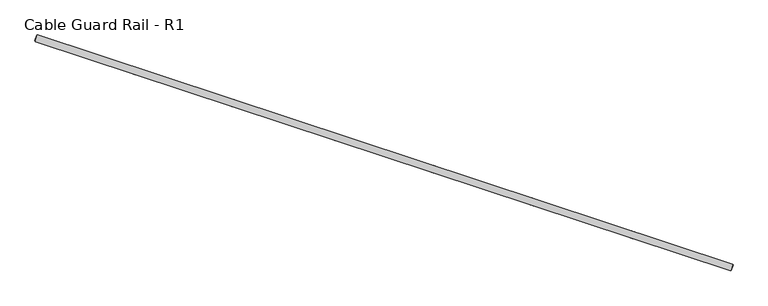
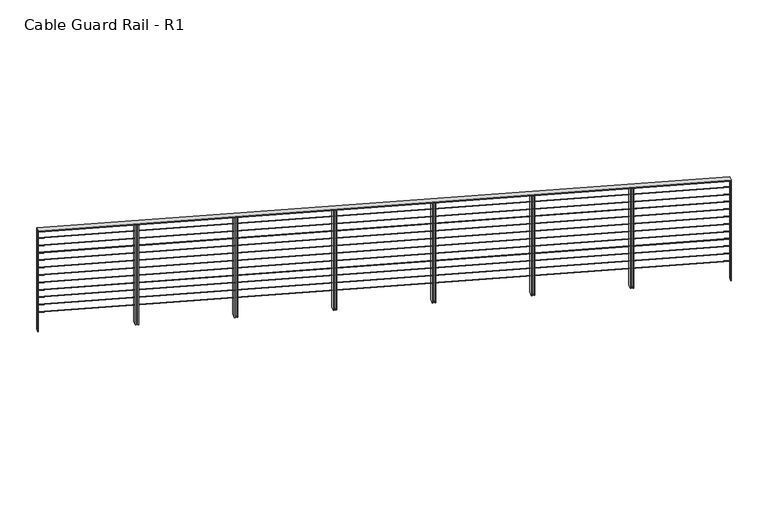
"""IFC4 building model written with IfcOpenShell, lengths in millimetres: railing geometry, Cable Guard Rail - R1."""

from ifc_helpers import new_model, si_unit, frame, origin, place, context, project, spatial, polyline, ellipse_curve, outline, extrude, faceted_brep, source, transform, mapped, element, save
from ifc_brep_helpers import plane_surface, cylinder_surface, advanced_brep


def cable_guard_rail_r1_dc42db87(model_context):
    return source(origin(), model_context, "Body", "SolidModel", [
        faceted_brep([(39967.5528844, 190153.8891806, 295794.755019), (39991.4553193, 190226.2432655, 295794.755019), (39991.4553193, 190226.2432655, 295782.0363753), (39967.5528844, 190153.8891806, 295782.0363753), (47512.9748594, 187661.2316074, 295364.0158915), (47512.9748594, 187661.2316074, 295351.2972478), (47536.8772944, 187733.5856924, 295351.2972478), (47536.8772944, 187733.5856924, 295364.0158915)], [[[0, 1, 2, 3]], [[4, 5, 6, 7]], [[1, 0, 4, 7]], [[2, 1, 7, 6]], [[3, 2, 6, 5]], [[0, 3, 5, 4]]]),
        advanced_brep(
        [(39980.5000366, 190193.0809766, 295680.455019), (39978.5081671, 190187.0514695, 295680.455019), (47525.9220117, 187700.4234034, 295249.7158915), (47523.9301421, 187694.3938964, 295249.7158915)],
        [
            (0, 1, ellipse_curve(frame((39979.5041019, 190190.066223, 295680.455019), z_axis=(-0.9495286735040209, 0.3136802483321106, 0.0), x_axis=(0.0, 0.0, 1.0)), 3.1796609, 3.175)),
            (1, 0, ellipse_curve(frame((39979.5041019, 190190.066223, 295680.455019), z_axis=(-0.9495286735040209, 0.3136802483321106, 0.0), x_axis=(0.0, 0.0, 1.0)), 3.1796609, 3.175)),
            (2, 3, ellipse_curve(frame((47524.9260769, 187697.4086499, 295249.7158915), z_axis=(0.9495286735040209, -0.3136802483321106, 0.0), x_axis=(0.0, 0.0, 1.0)), 3.1796609, 3.175)),
            (3, 2, ellipse_curve(frame((47524.9260769, 187697.4086499, 295249.7158915), z_axis=(0.9495286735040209, -0.3136802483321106, 0.0), x_axis=(0.0, 0.0, 1.0)), 3.1796609, 3.175)),
            (0, 2),
            (3, 1),
        ],
        [
            plane_surface(frame((39979.5041019, 190190.066223, 295680.455019), z_axis=(-0.9495286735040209, 0.3136802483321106, 0.0), x_axis=(0.3136802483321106, 0.9495286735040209, 0.0))),
            plane_surface(frame((47524.9260769, 187697.4086499, 295249.7158915), z_axis=(0.9495286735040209, -0.3136802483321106, 0.0), x_axis=(0.3136802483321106, 0.9495286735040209, 0.0))),
            cylinder_surface(frame((39979.5041019, 190190.066223, 295680.455019), z_axis=(-0.9481367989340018, 0.3132204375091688, 0.0541254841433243), x_axis=(-0.3136802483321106, -0.9495286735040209, 0.0)), 3.175),
        ],
        [
            (0, [[1, 2]]),
            (1, [[3, 4]]),
            (2, [[-1, 5, -4, 6]]),
            (2, [[-2, -6, -3, -5]]),
        ],
    ),
        advanced_brep(
        [(39980.5000366, 190193.0809766, 295578.855019), (39978.5081671, 190187.0514695, 295578.855019), (47525.9220117, 187700.4234034, 295148.1158915), (47523.9301421, 187694.3938964, 295148.1158915)],
        [
            (0, 1, ellipse_curve(frame((39979.5041019, 190190.066223, 295578.855019), z_axis=(-0.9495286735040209, 0.3136802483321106, 0.0), x_axis=(0.0, 0.0, 1.0)), 3.1796609, 3.175)),
            (1, 0, ellipse_curve(frame((39979.5041019, 190190.066223, 295578.855019), z_axis=(-0.9495286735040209, 0.3136802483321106, 0.0), x_axis=(0.0, 0.0, 1.0)), 3.1796609, 3.175)),
            (2, 3, ellipse_curve(frame((47524.9260769, 187697.4086499, 295148.1158915), z_axis=(0.9495286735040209, -0.3136802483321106, 0.0), x_axis=(0.0, 0.0, 1.0)), 3.1796609, 3.175)),
            (3, 2, ellipse_curve(frame((47524.9260769, 187697.4086499, 295148.1158915), z_axis=(0.9495286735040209, -0.3136802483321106, 0.0), x_axis=(0.0, 0.0, 1.0)), 3.1796609, 3.175)),
            (0, 2),
            (3, 1),
        ],
        [
            plane_surface(frame((39979.5041019, 190190.066223, 295578.855019), z_axis=(-0.9495286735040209, 0.3136802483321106, 0.0), x_axis=(0.3136802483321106, 0.9495286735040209, 0.0))),
            plane_surface(frame((47524.9260769, 187697.4086499, 295148.1158915), z_axis=(0.9495286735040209, -0.3136802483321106, 0.0), x_axis=(0.3136802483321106, 0.9495286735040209, 0.0))),
            cylinder_surface(frame((39979.5041019, 190190.066223, 295578.855019), z_axis=(-0.9481367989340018, 0.3132204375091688, 0.0541254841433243), x_axis=(-0.3136802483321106, -0.9495286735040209, 0.0)), 3.175),
        ],
        [
            (0, [[1, 2]]),
            (1, [[3, 4]]),
            (2, [[-1, 5, -4, 6]]),
            (2, [[-2, -6, -3, -5]]),
        ],
    ),
        advanced_brep(
        [(39980.5000366, 190193.0809766, 295477.255019), (39978.5081671, 190187.0514695, 295477.255019), (47525.9220117, 187700.4234034, 295046.5158915), (47523.9301421, 187694.3938964, 295046.5158915)],
        [
            (0, 1, ellipse_curve(frame((39979.5041019, 190190.066223, 295477.255019), z_axis=(-0.9495286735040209, 0.3136802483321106, 0.0), x_axis=(0.0, 0.0, 1.0)), 3.1796609, 3.175)),
            (1, 0, ellipse_curve(frame((39979.5041019, 190190.066223, 295477.255019), z_axis=(-0.9495286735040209, 0.3136802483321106, 0.0), x_axis=(0.0, 0.0, 1.0)), 3.1796609, 3.175)),
            (2, 3, ellipse_curve(frame((47524.9260769, 187697.4086499, 295046.5158915), z_axis=(0.9495286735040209, -0.3136802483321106, 0.0), x_axis=(0.0, 0.0, 1.0)), 3.1796609, 3.175)),
            (3, 2, ellipse_curve(frame((47524.9260769, 187697.4086499, 295046.5158915), z_axis=(0.9495286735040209, -0.3136802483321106, 0.0), x_axis=(0.0, 0.0, 1.0)), 3.1796609, 3.175)),
            (0, 2),
            (3, 1),
        ],
        [
            plane_surface(frame((39979.5041019, 190190.066223, 295477.255019), z_axis=(-0.9495286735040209, 0.3136802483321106, 0.0), x_axis=(0.3136802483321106, 0.9495286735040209, 0.0))),
            plane_surface(frame((47524.9260769, 187697.4086499, 295046.5158915), z_axis=(0.9495286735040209, -0.3136802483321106, 0.0), x_axis=(0.3136802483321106, 0.9495286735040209, 0.0))),
            cylinder_surface(frame((39979.5041019, 190190.066223, 295477.255019), z_axis=(-0.9481367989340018, 0.3132204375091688, 0.0541254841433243), x_axis=(-0.3136802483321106, -0.9495286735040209, 0.0)), 3.175),
        ],
        [
            (0, [[1, 2]]),
            (1, [[3, 4]]),
            (2, [[-1, 5, -4, 6]]),
            (2, [[-2, -6, -3, -5]]),
        ],
    ),
        advanced_brep(
        [(39980.5000366, 190193.0809766, 295375.655019), (39978.5081671, 190187.0514695, 295375.655019), (47525.9220117, 187700.4234034, 294944.9158915), (47523.9301421, 187694.3938964, 294944.9158915)],
        [
            (0, 1, ellipse_curve(frame((39979.5041019, 190190.066223, 295375.655019), z_axis=(-0.9495286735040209, 0.3136802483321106, 0.0), x_axis=(0.0, 0.0, 1.0)), 3.1796609, 3.175)),
            (1, 0, ellipse_curve(frame((39979.5041019, 190190.066223, 295375.655019), z_axis=(-0.9495286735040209, 0.3136802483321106, 0.0), x_axis=(0.0, 0.0, 1.0)), 3.1796609, 3.175)),
            (2, 3, ellipse_curve(frame((47524.9260769, 187697.4086499, 294944.9158915), z_axis=(0.9495286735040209, -0.3136802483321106, 0.0), x_axis=(0.0, 0.0, 1.0)), 3.1796609, 3.175)),
            (3, 2, ellipse_curve(frame((47524.9260769, 187697.4086499, 294944.9158915), z_axis=(0.9495286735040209, -0.3136802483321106, 0.0), x_axis=(0.0, 0.0, 1.0)), 3.1796609, 3.175)),
            (0, 2),
            (3, 1),
        ],
        [
            plane_surface(frame((39979.5041019, 190190.066223, 295375.655019), z_axis=(-0.9495286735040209, 0.3136802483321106, 0.0), x_axis=(0.3136802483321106, 0.9495286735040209, 0.0))),
            plane_surface(frame((47524.9260769, 187697.4086499, 294944.9158915), z_axis=(0.9495286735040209, -0.3136802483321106, 0.0), x_axis=(0.3136802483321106, 0.9495286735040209, 0.0))),
            cylinder_surface(frame((39979.5041019, 190190.066223, 295375.655019), z_axis=(-0.9481367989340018, 0.3132204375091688, 0.0541254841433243), x_axis=(-0.3136802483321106, -0.9495286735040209, 0.0)), 3.175),
        ],
        [
            (0, [[1, 2]]),
            (1, [[3, 4]]),
            (2, [[-1, 5, -4, 6]]),
            (2, [[-2, -6, -3, -5]]),
        ],
    ),
        advanced_brep(
        [(39980.5000366, 190193.0809766, 295274.055019), (39978.5081671, 190187.0514695, 295274.055019), (47525.9220117, 187700.4234034, 294843.3158915), (47523.9301421, 187694.3938964, 294843.3158915)],
        [
            (0, 1, ellipse_curve(frame((39979.5041019, 190190.066223, 295274.055019), z_axis=(-0.9495286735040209, 0.3136802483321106, 0.0), x_axis=(0.0, 0.0, 1.0)), 3.1796609, 3.175)),
            (1, 0, ellipse_curve(frame((39979.5041019, 190190.066223, 295274.055019), z_axis=(-0.9495286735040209, 0.3136802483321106, 0.0), x_axis=(0.0, 0.0, 1.0)), 3.1796609, 3.175)),
            (2, 3, ellipse_curve(frame((47524.9260769, 187697.4086499, 294843.3158915), z_axis=(0.9495286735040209, -0.3136802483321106, 0.0), x_axis=(0.0, 0.0, 1.0)), 3.1796609, 3.175)),
            (3, 2, ellipse_curve(frame((47524.9260769, 187697.4086499, 294843.3158915), z_axis=(0.9495286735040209, -0.3136802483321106, 0.0), x_axis=(0.0, 0.0, 1.0)), 3.1796609, 3.175)),
            (0, 2),
            (3, 1),
        ],
        [
            plane_surface(frame((39979.5041019, 190190.066223, 295274.055019), z_axis=(-0.9495286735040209, 0.3136802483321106, 0.0), x_axis=(0.3136802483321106, 0.9495286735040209, 0.0))),
            plane_surface(frame((47524.9260769, 187697.4086499, 294843.3158915), z_axis=(0.9495286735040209, -0.3136802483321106, 0.0), x_axis=(0.3136802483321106, 0.9495286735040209, 0.0))),
            cylinder_surface(frame((39979.5041019, 190190.066223, 295274.055019), z_axis=(-0.9481367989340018, 0.3132204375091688, 0.0541254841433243), x_axis=(-0.3136802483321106, -0.9495286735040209, 0.0)), 3.175),
        ],
        [
            (0, [[1, 2]]),
            (1, [[3, 4]]),
            (2, [[-1, 5, -4, 6]]),
            (2, [[-2, -6, -3, -5]]),
        ],
    ),
        advanced_brep(
        [(39980.5000366, 190193.0809766, 295172.455019), (39978.5081671, 190187.0514695, 295172.455019), (47525.9220117, 187700.4234034, 294741.7158915), (47523.9301421, 187694.3938964, 294741.7158915)],
        [
            (0, 1, ellipse_curve(frame((39979.5041019, 190190.066223, 295172.455019), z_axis=(-0.9495286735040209, 0.3136802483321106, 0.0), x_axis=(0.0, 0.0, 1.0)), 3.1796609, 3.175)),
            (1, 0, ellipse_curve(frame((39979.5041019, 190190.066223, 295172.455019), z_axis=(-0.9495286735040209, 0.3136802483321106, 0.0), x_axis=(0.0, 0.0, 1.0)), 3.1796609, 3.175)),
            (2, 3, ellipse_curve(frame((47524.9260769, 187697.4086499, 294741.7158915), z_axis=(0.9495286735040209, -0.3136802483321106, 0.0), x_axis=(0.0, 0.0, 1.0)), 3.1796609, 3.175)),
            (3, 2, ellipse_curve(frame((47524.9260769, 187697.4086499, 294741.7158915), z_axis=(0.9495286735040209, -0.3136802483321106, 0.0), x_axis=(0.0, 0.0, 1.0)), 3.1796609, 3.175)),
            (0, 2),
            (3, 1),
        ],
        [
            plane_surface(frame((39979.5041019, 190190.066223, 295172.455019), z_axis=(-0.9495286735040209, 0.3136802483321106, 0.0), x_axis=(0.3136802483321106, 0.9495286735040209, 0.0))),
            plane_surface(frame((47524.9260769, 187697.4086499, 294741.7158915), z_axis=(0.9495286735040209, -0.3136802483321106, 0.0), x_axis=(0.3136802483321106, 0.9495286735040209, 0.0))),
            cylinder_surface(frame((39979.5041019, 190190.066223, 295172.455019), z_axis=(-0.9481367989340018, 0.3132204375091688, 0.0541254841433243), x_axis=(-0.3136802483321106, -0.9495286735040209, 0.0)), 3.175),
        ],
        [
            (0, [[1, 2]]),
            (1, [[3, 4]]),
            (2, [[-1, 5, -4, 6]]),
            (2, [[-2, -6, -3, -5]]),
        ],
    ),
        advanced_brep(
        [(39980.5000366, 190193.0809766, 295070.855019), (39978.5081671, 190187.0514695, 295070.855019), (47525.9220117, 187700.4234034, 294640.1158915), (47523.9301421, 187694.3938964, 294640.1158915)],
        [
            (0, 1, ellipse_curve(frame((39979.5041019, 190190.066223, 295070.855019), z_axis=(-0.9495286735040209, 0.3136802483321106, 0.0), x_axis=(0.0, 0.0, 1.0)), 3.1796609, 3.175)),
            (1, 0, ellipse_curve(frame((39979.5041019, 190190.066223, 295070.855019), z_axis=(-0.9495286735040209, 0.3136802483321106, 0.0), x_axis=(0.0, 0.0, 1.0)), 3.1796609, 3.175)),
            (2, 3, ellipse_curve(frame((47524.9260769, 187697.4086499, 294640.1158915), z_axis=(0.9495286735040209, -0.3136802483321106, 0.0), x_axis=(0.0, 0.0, 1.0)), 3.1796609, 3.175)),
            (3, 2, ellipse_curve(frame((47524.9260769, 187697.4086499, 294640.1158915), z_axis=(0.9495286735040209, -0.3136802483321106, 0.0), x_axis=(0.0, 0.0, 1.0)), 3.1796609, 3.175)),
            (0, 2),
            (3, 1),
        ],
        [
            plane_surface(frame((39979.5041019, 190190.066223, 295070.855019), z_axis=(-0.9495286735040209, 0.3136802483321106, 0.0), x_axis=(0.3136802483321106, 0.9495286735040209, 0.0))),
            plane_surface(frame((47524.9260769, 187697.4086499, 294640.1158915), z_axis=(0.9495286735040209, -0.3136802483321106, 0.0), x_axis=(0.3136802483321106, 0.9495286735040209, 0.0))),
            cylinder_surface(frame((39979.5041019, 190190.066223, 295070.855019), z_axis=(-0.9481367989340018, 0.3132204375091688, 0.0541254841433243), x_axis=(-0.3136802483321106, -0.9495286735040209, 0.0)), 3.175),
        ],
        [
            (0, [[1, 2]]),
            (1, [[3, 4]]),
            (2, [[-1, 5, -4, 6]]),
            (2, [[-2, -6, -3, -5]]),
        ],
    ),
        advanced_brep(
        [(39980.5000366, 190193.0809766, 294969.255019), (39978.5081671, 190187.0514695, 294969.255019), (47525.9220117, 187700.4234034, 294538.5158915), (47523.9301421, 187694.3938964, 294538.5158915)],
        [
            (0, 1, ellipse_curve(frame((39979.5041019, 190190.066223, 294969.255019), z_axis=(-0.9495286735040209, 0.3136802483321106, 0.0), x_axis=(0.0, 0.0, 1.0)), 3.1796609, 3.175)),
            (1, 0, ellipse_curve(frame((39979.5041019, 190190.066223, 294969.255019), z_axis=(-0.9495286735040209, 0.3136802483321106, 0.0), x_axis=(0.0, 0.0, 1.0)), 3.1796609, 3.175)),
            (2, 3, ellipse_curve(frame((47524.9260769, 187697.4086499, 294538.5158915), z_axis=(0.9495286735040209, -0.3136802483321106, 0.0), x_axis=(0.0, 0.0, 1.0)), 3.1796609, 3.175)),
            (3, 2, ellipse_curve(frame((47524.9260769, 187697.4086499, 294538.5158915), z_axis=(0.9495286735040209, -0.3136802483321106, 0.0), x_axis=(0.0, 0.0, 1.0)), 3.1796609, 3.175)),
            (0, 2),
            (3, 1),
        ],
        [
            plane_surface(frame((39979.5041019, 190190.066223, 294969.255019), z_axis=(-0.9495286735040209, 0.3136802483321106, 0.0), x_axis=(0.3136802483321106, 0.9495286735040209, 0.0))),
            plane_surface(frame((47524.9260769, 187697.4086499, 294538.5158915), z_axis=(0.9495286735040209, -0.3136802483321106, 0.0), x_axis=(0.3136802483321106, 0.9495286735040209, 0.0))),
            cylinder_surface(frame((39979.5041019, 190190.066223, 294969.255019), z_axis=(-0.9481367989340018, 0.3132204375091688, 0.0541254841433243), x_axis=(-0.3136802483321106, -0.9495286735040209, 0.0)), 3.175),
        ],
        [
            (0, [[1, 2]]),
            (1, [[3, 4]]),
            (2, [[-1, 5, -4, 6]]),
            (2, [[-2, -6, -3, -5]]),
        ],
    ),
        advanced_brep(
        [(39980.5000366, 190193.0809766, 294867.655019), (39978.5081671, 190187.0514695, 294867.655019), (47525.9220117, 187700.4234034, 294436.9158915), (47523.9301421, 187694.3938964, 294436.9158915)],
        [
            (0, 1, ellipse_curve(frame((39979.5041019, 190190.066223, 294867.655019), z_axis=(-0.9495286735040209, 0.3136802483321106, 0.0), x_axis=(0.0, 0.0, 1.0)), 3.1796609, 3.175)),
            (1, 0, ellipse_curve(frame((39979.5041019, 190190.066223, 294867.655019), z_axis=(-0.9495286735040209, 0.3136802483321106, 0.0), x_axis=(0.0, 0.0, 1.0)), 3.1796609, 3.175)),
            (2, 3, ellipse_curve(frame((47524.9260769, 187697.4086499, 294436.9158915), z_axis=(0.9495286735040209, -0.3136802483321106, 0.0), x_axis=(0.0, 0.0, 1.0)), 3.1796609, 3.175)),
            (3, 2, ellipse_curve(frame((47524.9260769, 187697.4086499, 294436.9158915), z_axis=(0.9495286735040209, -0.3136802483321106, 0.0), x_axis=(0.0, 0.0, 1.0)), 3.1796609, 3.175)),
            (0, 2),
            (3, 1),
        ],
        [
            plane_surface(frame((39979.5041019, 190190.066223, 294867.655019), z_axis=(-0.9495286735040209, 0.3136802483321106, 0.0), x_axis=(0.3136802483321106, 0.9495286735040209, 0.0))),
            plane_surface(frame((47524.9260769, 187697.4086499, 294436.9158915), z_axis=(0.9495286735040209, -0.3136802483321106, 0.0), x_axis=(0.3136802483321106, 0.9495286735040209, 0.0))),
            cylinder_surface(frame((39979.5041019, 190190.066223, 294867.655019), z_axis=(-0.9481367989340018, 0.3132204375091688, 0.0541254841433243), x_axis=(-0.3136802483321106, -0.9495286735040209, 0.0)), 3.175),
        ],
        [
            (0, [[1, 2]]),
            (1, [[3, 4]]),
            (2, [[-1, 5, -4, 6]]),
            (2, [[-2, -6, -3, -5]]),
        ],
    ),
        advanced_brep(
        [(39980.5000366, 190193.0809766, 294766.055019), (39978.5081671, 190187.0514695, 294766.055019), (47525.9220117, 187700.4234034, 294335.3158915), (47523.9301421, 187694.3938964, 294335.3158915)],
        [
            (0, 1, ellipse_curve(frame((39979.5041019, 190190.066223, 294766.055019), z_axis=(-0.9495286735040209, 0.3136802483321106, 0.0), x_axis=(0.0, 0.0, 1.0)), 3.1796609, 3.175)),
            (1, 0, ellipse_curve(frame((39979.5041019, 190190.066223, 294766.055019), z_axis=(-0.9495286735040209, 0.3136802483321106, 0.0), x_axis=(0.0, 0.0, 1.0)), 3.1796609, 3.175)),
            (2, 3, ellipse_curve(frame((47524.9260769, 187697.4086499, 294335.3158915), z_axis=(0.9495286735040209, -0.3136802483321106, 0.0), x_axis=(0.0, 0.0, 1.0)), 3.1796609, 3.175)),
            (3, 2, ellipse_curve(frame((47524.9260769, 187697.4086499, 294335.3158915), z_axis=(0.9495286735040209, -0.3136802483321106, 0.0), x_axis=(0.0, 0.0, 1.0)), 3.1796609, 3.175)),
            (0, 2),
            (3, 1),
        ],
        [
            plane_surface(frame((39979.5041019, 190190.066223, 294766.055019), z_axis=(-0.9495286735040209, 0.3136802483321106, 0.0), x_axis=(0.3136802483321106, 0.9495286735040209, 0.0))),
            plane_surface(frame((47524.9260769, 187697.4086499, 294335.3158915), z_axis=(0.9495286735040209, -0.3136802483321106, 0.0), x_axis=(0.3136802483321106, 0.9495286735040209, 0.0))),
            cylinder_surface(frame((39979.5041019, 190190.066223, 294766.055019), z_axis=(-0.9481367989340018, 0.3132204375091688, 0.0541254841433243), x_axis=(-0.3136802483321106, -0.9495286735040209, 0.0)), 3.175),
        ],
        [
            (0, [[1, 2]]),
            (1, [[3, 4]]),
            (2, [[-1, 5, -4, 6]]),
            (2, [[-2, -6, -3, -5]]),
        ],
    ),
        advanced_brep(
        [(39980.5000366, 190193.0809766, 294664.455019), (39978.5081671, 190187.0514695, 294664.455019), (47525.9220117, 187700.4234034, 294233.7158915), (47523.9301421, 187694.3938964, 294233.7158915)],
        [
            (0, 1, ellipse_curve(frame((39979.5041019, 190190.066223, 294664.455019), z_axis=(-0.9495286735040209, 0.3136802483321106, 0.0), x_axis=(0.0, 0.0, 1.0)), 3.1796609, 3.175)),
            (1, 0, ellipse_curve(frame((39979.5041019, 190190.066223, 294664.455019), z_axis=(-0.9495286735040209, 0.3136802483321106, 0.0), x_axis=(0.0, 0.0, 1.0)), 3.1796609, 3.175)),
            (2, 3, ellipse_curve(frame((47524.9260769, 187697.4086499, 294233.7158915), z_axis=(0.9495286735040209, -0.3136802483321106, 0.0), x_axis=(0.0, 0.0, 1.0)), 3.1796609, 3.175)),
            (3, 2, ellipse_curve(frame((47524.9260769, 187697.4086499, 294233.7158915), z_axis=(0.9495286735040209, -0.3136802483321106, 0.0), x_axis=(0.0, 0.0, 1.0)), 3.1796609, 3.175)),
            (0, 2),
            (3, 1),
        ],
        [
            plane_surface(frame((39979.5041019, 190190.066223, 294664.455019), z_axis=(-0.9495286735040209, 0.3136802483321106, 0.0), x_axis=(0.3136802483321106, 0.9495286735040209, 0.0))),
            plane_surface(frame((47524.9260769, 187697.4086499, 294233.7158915), z_axis=(0.9495286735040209, -0.3136802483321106, 0.0), x_axis=(0.3136802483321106, 0.9495286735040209, 0.0))),
            cylinder_surface(frame((39979.5041019, 190190.066223, 294664.455019), z_axis=(-0.9481367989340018, 0.3132204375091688, 0.0541254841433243), x_axis=(-0.3136802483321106, -0.9495286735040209, 0.0)), 3.175),
        ],
        [
            (0, [[1, 2]]),
            (1, [[3, 4]]),
            (2, [[-1, 5, -4, 6]]),
            (2, [[-2, -6, -3, -5]]),
        ],
    ),
        extrude(outline(polyline([(46437.8565946, 188096.6511749), (46446.9008552, 188093.6633705), (46422.9984203, 188021.3092856), (46413.9541597, 188024.29709), (46437.8565946, 188096.6511749)])), frame((0.0, 0.0, 294047.6000526), z_axis=(0.0, 0.0, 1.0), x_axis=(1.0, 0.0, 0.0)), (0.0, 0.0, 1.0), 1365.25),
        extrude(outline(polyline([(46464.9893764, 188087.6877618), (46473.9878362, 188084.7150879), (46450.0854012, 188012.361003), (46441.0869415, 188015.3336769), (46464.9893764, 188087.6877618)])), frame((0.0, 0.0, 294047.6000526), z_axis=(0.0, 0.0, 1.0), x_axis=(1.0, 0.0, 0.0)), (0.0, 0.0, 1.0), 1365.25),
        extrude(outline(polyline([(45359.9391696, 188452.7451139), (45368.9834302, 188449.7573095), (45345.0809953, 188377.4032246), (45336.0367347, 188380.391029), (45359.9391696, 188452.7451139)])), frame((0.0, 0.0, 294109.1342137), z_axis=(0.0, 0.0, 1.0), x_axis=(1.0, 0.0, 0.0)), (0.0, 0.0, 1.0), 1365.25),
        extrude(outline(polyline([(45387.0719514, 188443.7817008), (45396.0704112, 188440.8090269), (45372.1679762, 188368.454942), (45363.1695165, 188371.4276159), (45387.0719514, 188443.7817008)])), frame((0.0, 0.0, 294109.1342137), z_axis=(0.0, 0.0, 1.0), x_axis=(1.0, 0.0, 0.0)), (0.0, 0.0, 1.0), 1365.25),
        extrude(outline(polyline([(44282.0217446, 188808.8390529), (44291.0660052, 188805.8512486), (44267.1635703, 188733.4971636), (44258.1193097, 188736.484968), (44282.0217446, 188808.8390529)])), frame((0.0, 0.0, 294170.6683747), z_axis=(0.0, 0.0, 1.0), x_axis=(1.0, 0.0, 0.0)), (0.0, 0.0, 1.0), 1365.25),
        extrude(outline(polyline([(44309.1545264, 188799.8756398), (44318.1529862, 188796.902966), (44294.2505512, 188724.548881), (44285.2520915, 188727.5215549), (44309.1545264, 188799.8756398)])), frame((0.0, 0.0, 294170.6683747), z_axis=(0.0, 0.0, 1.0), x_axis=(1.0, 0.0, 0.0)), (0.0, 0.0, 1.0), 1365.25),
        extrude(outline(polyline([(43204.1043196, 189164.9329919), (43213.1485802, 189161.9451876), (43189.2461453, 189089.5911027), (43180.2018846, 189092.578907), (43204.1043196, 189164.9329919)])), frame((0.0, 0.0, 294232.2025358), z_axis=(0.0, 0.0, 1.0), x_axis=(1.0, 0.0, 0.0)), (0.0, 0.0, 1.0), 1365.25),
        extrude(outline(polyline([(43231.2371014, 189155.9695788), (43240.2355611, 189152.996905), (43216.3331262, 189080.64282), (43207.3346665, 189083.6154939), (43231.2371014, 189155.9695788)])), frame((0.0, 0.0, 294232.2025358), z_axis=(0.0, 0.0, 1.0), x_axis=(1.0, 0.0, 0.0)), (0.0, 0.0, 1.0), 1365.25),
        extrude(outline(polyline([(42126.1868946, 189521.026931), (42135.2311552, 189518.0391266), (42111.3287203, 189445.6850417), (42102.2844596, 189448.672846), (42126.1868946, 189521.026931)])), frame((0.0, 0.0, 294293.7366969), z_axis=(0.0, 0.0, 1.0), x_axis=(1.0, 0.0, 0.0)), (0.0, 0.0, 1.0), 1365.25),
        extrude(outline(polyline([(42153.3196764, 189512.0635179), (42162.3181361, 189509.090844), (42138.4157012, 189436.7367591), (42129.4172415, 189439.7094329), (42153.3196764, 189512.0635179)])), frame((0.0, 0.0, 294293.7366969), z_axis=(0.0, 0.0, 1.0), x_axis=(1.0, 0.0, 0.0)), (0.0, 0.0, 1.0), 1365.25),
        extrude(outline(polyline([(41048.2694696, 189877.12087), (41057.3137302, 189874.1330656), (41033.4112952, 189801.7789807), (41024.3670346, 189804.7667851), (41048.2694696, 189877.12087)])), frame((0.0, 0.0, 294355.2708579), z_axis=(0.0, 0.0, 1.0), x_axis=(1.0, 0.0, 0.0)), (0.0, 0.0, 1.0), 1365.25),
        extrude(outline(polyline([(41075.4022514, 189868.1574569), (41084.4007111, 189865.184783), (41060.4982762, 189792.8306981), (41051.4998165, 189795.803372), (41075.4022514, 189868.1574569)])), frame((0.0, 0.0, 294355.2708579), z_axis=(0.0, 0.0, 1.0), x_axis=(1.0, 0.0, 0.0)), (0.0, 0.0, 1.0), 1365.25),
        extrude(outline(polyline([(47531.8706712, 187728.5521201), (47537.9001783, 187726.5602505), (47517.9814826, 187666.2651797), (47511.9519755, 187668.2570493), (47531.8706712, 187728.5521201)])), frame((0.0, 0.0, 293986.0658915), z_axis=(0.0, 0.0, 1.0), x_axis=(1.0, 0.0, 0.0)), (0.0, 0.0, 1.0), 1365.25),
        extrude(outline(polyline([(39986.4486962, 190221.2096932), (39992.4782033, 190219.2178236), (39972.5595075, 190158.9227528), (39966.5300004, 190160.9146224), (39986.4486962, 190221.2096932)])), frame((0.0, 0.0, 294416.805019), z_axis=(0.0, 0.0, 1.0), x_axis=(1.0, 0.0, 0.0)), (0.0, 0.0, 1.0), 1365.25),
    ])


if __name__ == "__main__":
    model = new_model("IFC4")
    model_context = context("Model", 3, world=origin())
    ifc_project = project(units=[si_unit("LENGTHUNIT", "METRE", prefix="MILLI")], contexts=[model_context])
    site = spatial("IfcSite", under=ifc_project)
    building = spatial("IfcBuilding", under=site)
    placement = place(None, origin())
    cable_guard_rail_r1_shape = cable_guard_rail_r1_dc42db87(model_context)
    element("IfcRailing", 1, ObjectType="Cable Guard Rail - R1", at=placement, inside=building, context=model_context, shape_type="MappedRepresentation", body=[
        mapped(cable_guard_rail_r1_shape, transform((0.0, 0.0, 0.0), x_axis=(1.0, 0.0, 0.0), y_axis=(0.0, 1.0, 0.0), z_axis=(0.0, 0.0, 1.0))),
    ])
    save(model, "model.ifc")
